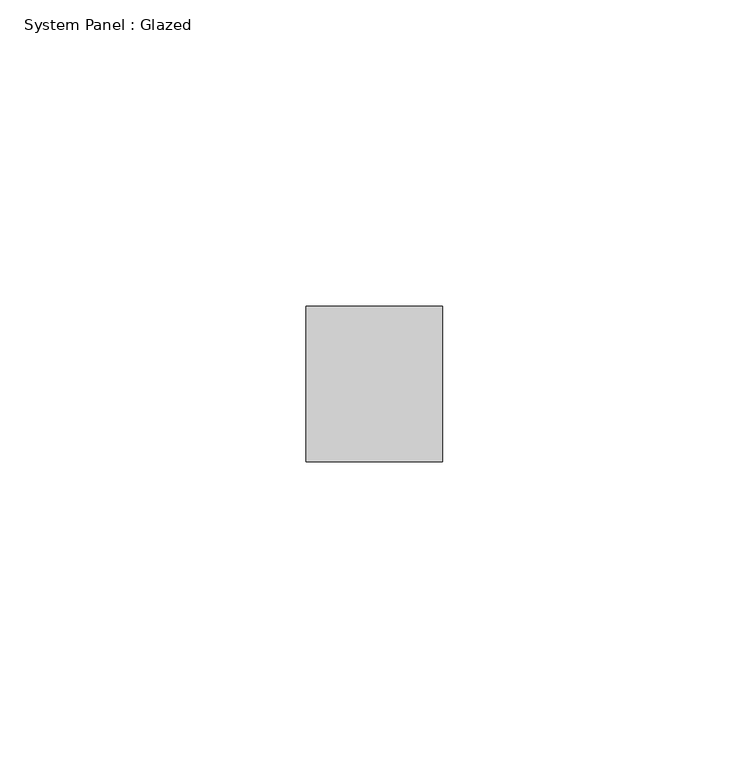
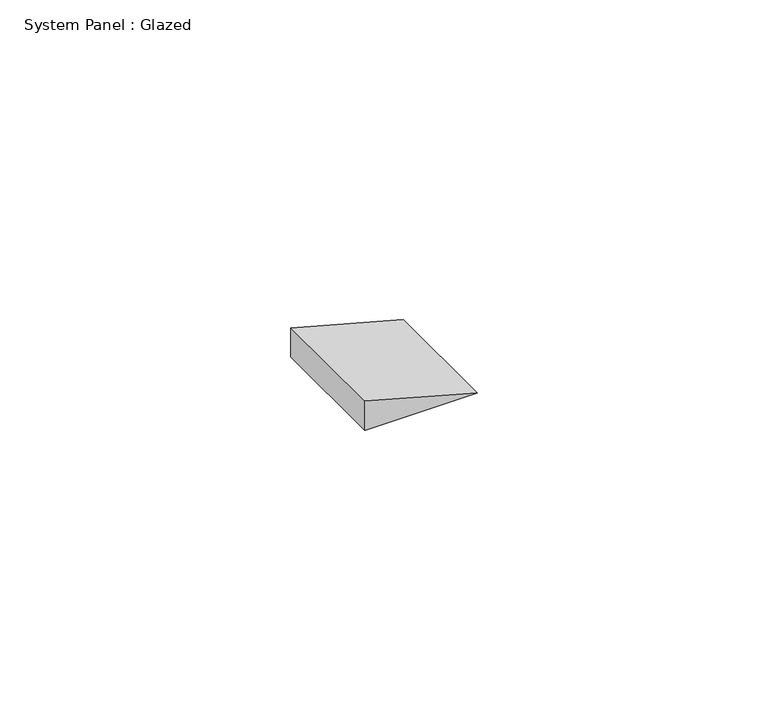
"""IFC4 building model written with IfcOpenShell, lengths in millimetres: plate geometry, System Panel : Glazed."""

from ifc_helpers import new_model, si_unit, frame, origin, place, context, project, spatial, polyline, outline, extrude, source, transform, mapped, element, save


def system_panel_glazed_4a746f95(model_context):
    return source(origin(), model_context, "Body", "SweptSolid", [
        extrude(outline(polyline([(0.0, -11.1542899), (0.0, 11.1542899), (6.1086281, -11.1542899), (0.0, -11.1542899)])), frame((0.0, 19.05, 0.0), z_axis=(0.0, 1.0, 0.0), x_axis=(0.0, 0.0, 1.0)), (0.0, 0.0, 1.0), 25.4),
    ])


if __name__ == "__main__":
    model = new_model("IFC4")
    model_context = context("Model", 3, world=origin())
    ifc_project = project(units=[si_unit("LENGTHUNIT", "METRE", prefix="MILLI")], contexts=[model_context])
    site = spatial("IfcSite", under=ifc_project)
    building = spatial("IfcBuilding", under=site)
    placement = place(None, origin())
    system_panel_glazed_shape = system_panel_glazed_4a746f95(model_context)
    element("IfcPlate", 1, ObjectType="System Panel : Glazed", at=placement, inside=building, context=model_context, shape_type="MappedRepresentation", body=[
        mapped(system_panel_glazed_shape, transform((0.0, 0.0, 0.0), x_axis=(1.0, 0.0, 0.0), y_axis=(0.0, 1.0, 0.0), z_axis=(0.0, 0.0, 1.0))),
    ])
    save(model, "model.ifc")
